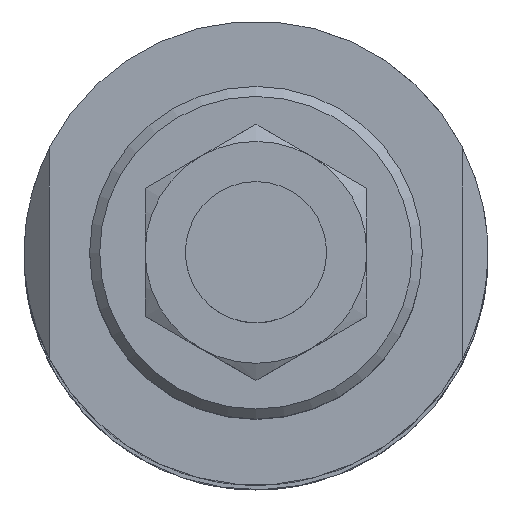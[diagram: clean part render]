
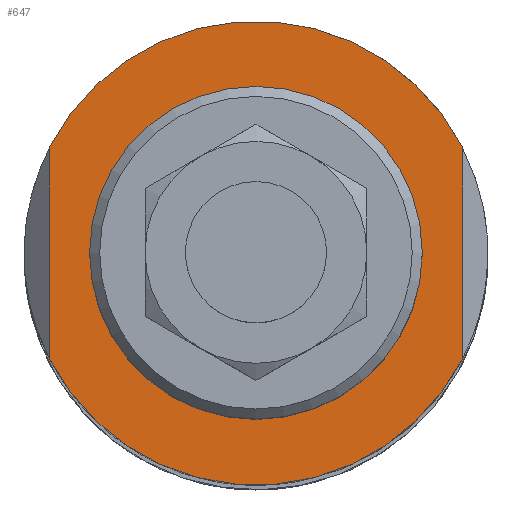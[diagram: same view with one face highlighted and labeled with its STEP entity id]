
A CAD part, top view. The second image highlights one B-rep face of the part: STEP entity #647.
In plain terms, the highlighted planar face has unit normal (0, 0, 1).
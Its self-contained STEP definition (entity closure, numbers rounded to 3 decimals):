
#531=CARTESIAN_POINT('',(-20.5,10.428,313.0));
#532=VERTEX_POINT('',#531);
#540=CARTESIAN_POINT('',(-20.5,-10.428,313.0));
#541=VERTEX_POINT('',#540);
#548=CARTESIAN_POINT('',(-20.5,10.428,313.0));
#549=DIRECTION('',(0.0,-1.0,0.0));
#550=VECTOR('',#549,20.857);
#551=LINE('',#548,#550);
#552=EDGE_CURVE('',#532,#541,#551,.T.);
#587=CARTESIAN_POINT('',(20.5,-10.428,313.0));
#588=VERTEX_POINT('',#587);
#596=CARTESIAN_POINT('',(20.5,10.428,313.0));
#597=VERTEX_POINT('',#596);
#604=CARTESIAN_POINT('',(20.5,-10.428,313.0));
#605=DIRECTION('',(0.0,1.0,0.0));
#606=VECTOR('',#605,20.857);
#607=LINE('',#604,#606);
#608=EDGE_CURVE('',#588,#597,#607,.T.);
#613=CARTESIAN_POINT('',(0.0,0.0,313.0));
#614=DIRECTION('',(0.0,0.0,-1.0));
#615=DIRECTION('',(-1.0,0.0,0.0));
#616=AXIS2_PLACEMENT_3D('',#613,#614,#615);
#617=PLANE('',#616);
#618=ORIENTED_EDGE('',*,*,#552,.T.);
#619=CARTESIAN_POINT('',(0.0,0.0,313.0));
#620=DIRECTION('',(0.0,0.0,-1.0));
#621=DIRECTION('',(-1.0,0.0,0.0));
#622=AXIS2_PLACEMENT_3D('',#619,#620,#621);
#623=CIRCLE('',#622,23.);
#624=EDGE_CURVE('',#588,#541,#623,.T.);
#625=ORIENTED_EDGE('',*,*,#624,.F.);
#626=ORIENTED_EDGE('',*,*,#608,.T.);
#627=CARTESIAN_POINT('',(0.0,0.0,313.0));
#628=DIRECTION('',(0.0,0.0,-1.0));
#629=DIRECTION('',(-1.0,0.0,0.0));
#630=AXIS2_PLACEMENT_3D('',#627,#628,#629);
#631=CIRCLE('',#630,23.);
#632=EDGE_CURVE('',#532,#597,#631,.T.);
#633=ORIENTED_EDGE('',*,*,#632,.F.);
#634=EDGE_LOOP('',(#618,#625,#626,#633));
#635=FACE_OUTER_BOUND('',#634,.T.);
#636=CARTESIAN_POINT('',(16.5,0.,313.0));
#637=VERTEX_POINT('',#636);
#638=CARTESIAN_POINT('',(0.0,0.0,313.0));
#639=DIRECTION('',(0.0,0.0,-1.0));
#640=DIRECTION('',(-1.0,0.0,0.0));
#641=AXIS2_PLACEMENT_3D('',#638,#639,#640);
#642=CIRCLE('',#641,16.5);
#643=EDGE_CURVE('',#637,#637,#642,.T.);
#644=ORIENTED_EDGE('',*,*,#643,.T.);
#645=EDGE_LOOP('',(#644));
#646=FACE_BOUND('',#645,.T.);
#647=ADVANCED_FACE('',(#635,#646),#617,.F.);
